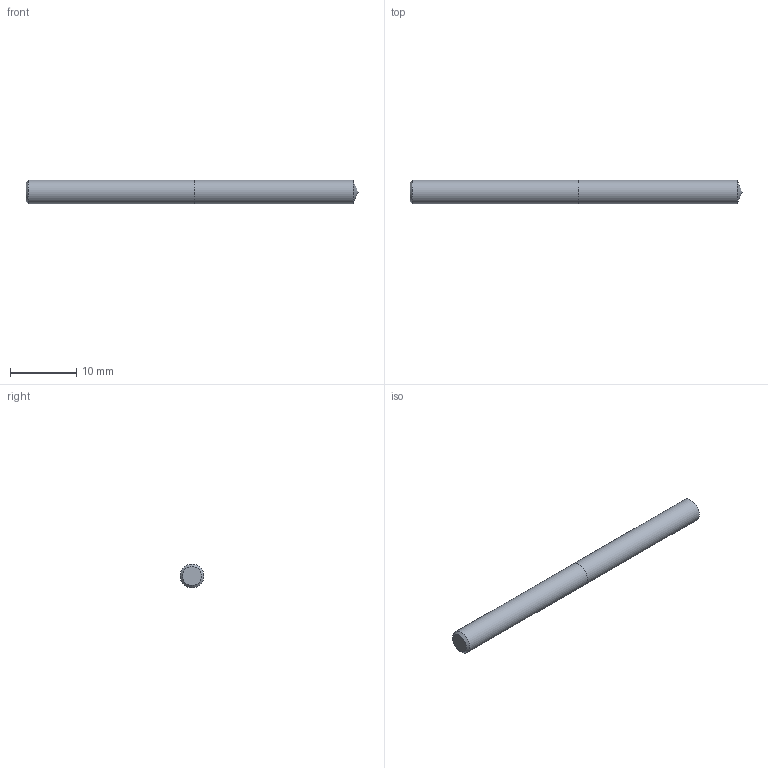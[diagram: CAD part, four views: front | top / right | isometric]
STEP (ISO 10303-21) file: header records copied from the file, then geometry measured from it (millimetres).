
FILE_DESCRIPTION (( 'STEP AP214' ), '1' );
FILE_NAME ('03-2408.STEP', '2022-06-03T07:22:25', ( 'USER' ), ( '' ), 'SwSTEP 2.0', 'SolidWorks 2018', '' );
FILE_SCHEMA (( 'AUTOMOTIVE_DESIGN' ));
Length unit declared in the file: inch
Products named in the file (1): 03-2408
Bounding box: 49.95 x 3.57 x 3.57 mm (x, y, z)
Volume: 494.9 mm3; surface area: 590.6 mm2
Topology: 2 solids, 2 shells, 7 faces, 11 edges, 7 vertices
Faces by surface type: plane 3, cylinder 2, cone 2
Full cylindrical faces by diameter (mm): 3.572 x2
Entity records: 214 total; most frequent: DIRECTION 26, CARTESIAN_POINT 18, AXIS2_PLACEMENT_3D 13, EDGE_LOOP 10, ORIENTED_EDGE 10, FACE_OUTER_BOUND 9, DIMENSIONAL_EXPONENTS 7, ADVANCED_FACE 7
